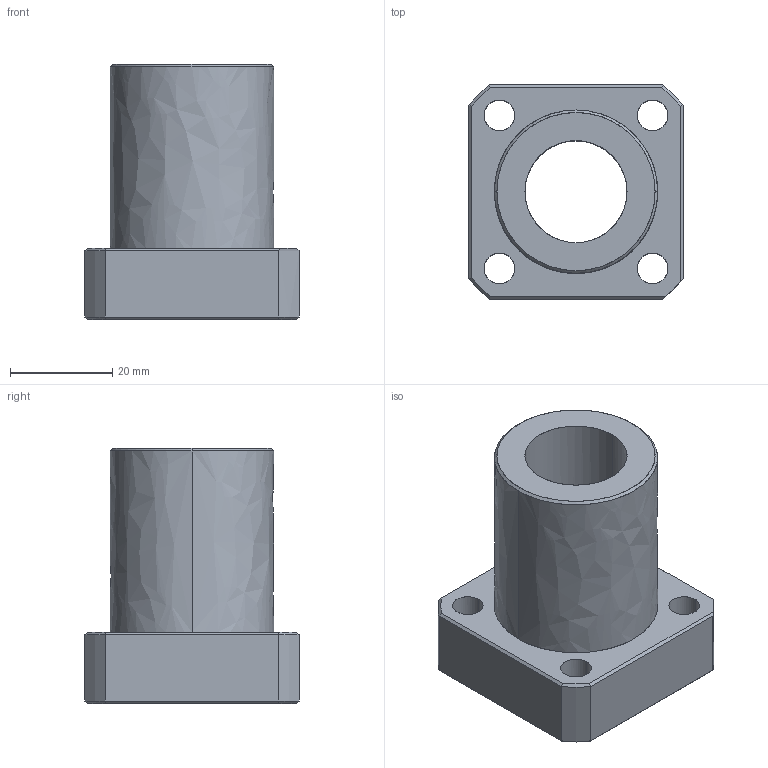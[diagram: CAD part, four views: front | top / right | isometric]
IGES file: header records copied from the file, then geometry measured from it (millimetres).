
Global section: file name: No Iges File Name specified; native system: AutoDesk Inventor R10; preprocessor: AutoDesk Inventor Iges Exporter R10; author: No Author specified; organization: No Organization specified; date: 20101214.155059; units: millimetre
Bounding box: 42 x 42 x 50 mm (x, y, z)
Surface area: 12555.7 mm2 (no closed solid volume)
Topology: 0 solids, 0 shells, 62 faces, 440 edges, 440 vertices
Faces by surface type: bspline 62
